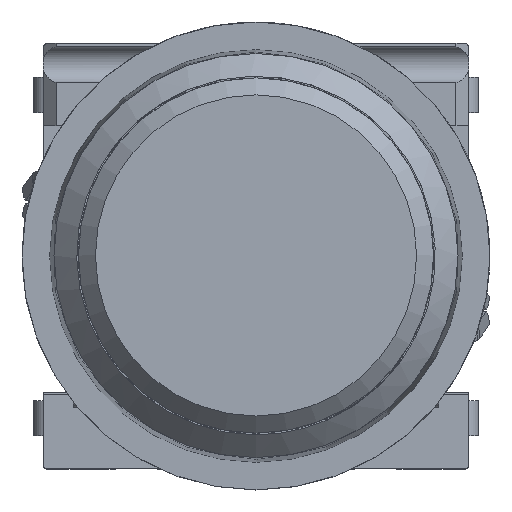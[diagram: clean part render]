
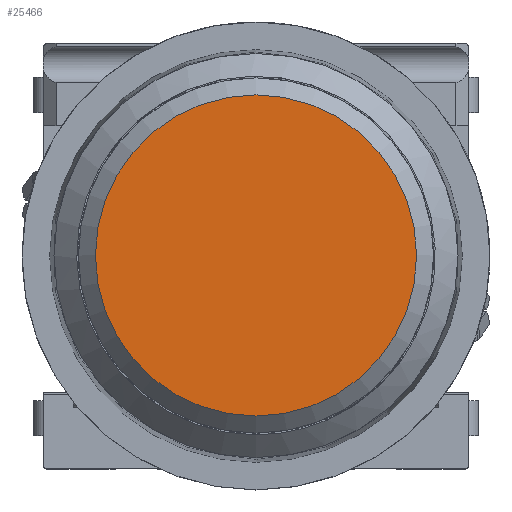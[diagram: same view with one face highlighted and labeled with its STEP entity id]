
A CAD part, top view. The second image highlights one B-rep face of the part: STEP entity #25466.
In plain terms, the highlighted planar face has unit normal (0, 0, 1).
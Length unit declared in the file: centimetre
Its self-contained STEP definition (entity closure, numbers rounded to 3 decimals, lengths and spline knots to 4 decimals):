
#1317=FACE_OUTER_BOUND($,#2637,.T.);
#2637=EDGE_LOOP($,(#15883));
#4086=CIRCLE($,#26844,0.3775);
#9598=VERTEX_POINT($,#35290);
#12080=EDGE_CURVE($,#9598,#9598,#4086,.T.);
#15883=ORIENTED_EDGE($,*,*,#12080,.F.);
#23267=PLANE($,#26845);
#25466=ADVANCED_FACE($,(#1317),#23267,.T.);
#26844=AXIS2_PLACEMENT_3D($,#35291,#28888,#28889);
#26845=AXIS2_PLACEMENT_3D($,#35292,#28890,#28891);
#28888=DIRECTION('center_axis',(0.,0.,
-1.));
#28889=DIRECTION('ref_axis',(-0.643,0.766,0.));
#28890=DIRECTION('center_axis',(0.,0.,
1.));
#28891=DIRECTION('ref_axis',(0.766,0.643,0.));
#35290=CARTESIAN_POINT('',(0.2427,-0.2892,1.496));
#35291=CARTESIAN_POINT('Origin',(0.,0.,
1.496));
#35292=CARTESIAN_POINT('Origin',(0.1342,-0.1599,1.496));
